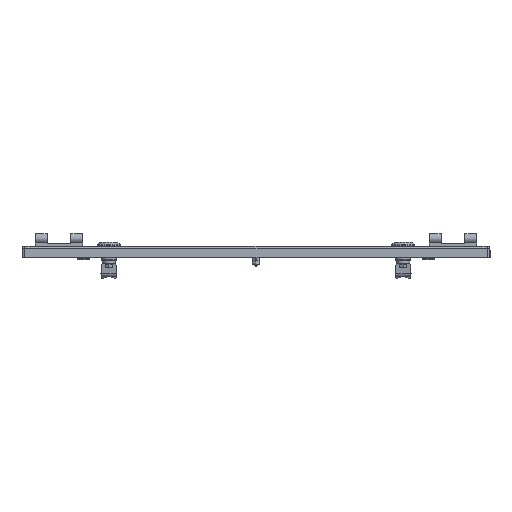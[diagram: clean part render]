
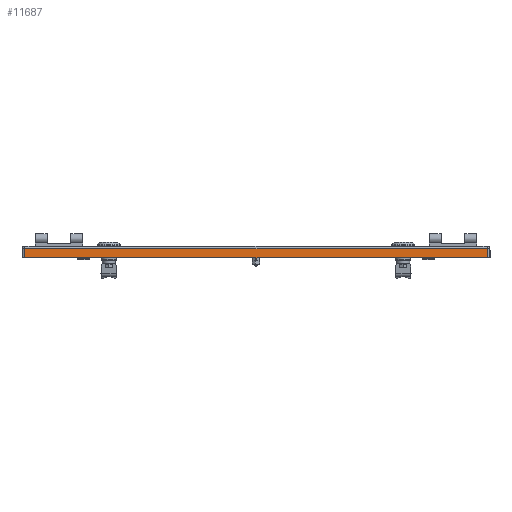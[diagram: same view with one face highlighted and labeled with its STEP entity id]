
A CAD part, left-side view. The second image highlights one B-rep face of the part: STEP entity #11687.
In plain terms, the highlighted planar face has unit normal (-1, 0, 0).
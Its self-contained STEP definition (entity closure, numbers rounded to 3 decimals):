
#4867 = DIRECTION ( 'NONE',  ( 0., -1., 0. ) ) ;
#4870 = CARTESIAN_POINT ( 'NONE',  ( -292.5, 297., -15. ) ) ;
#4894 = CARTESIAN_POINT ( 'NONE',  ( -292.5, -293.5, -15. ) ) ;
#4895 = DIRECTION ( 'NONE',  ( 0., 0., 1. ) ) ;
#4896 = CARTESIAN_POINT ( 'NONE',  ( -292.5, 297., -3.5 ) ) ;
#4897 = DIRECTION ( 'NONE',  ( 0., 1., 0. ) ) ;
#4898 = CARTESIAN_POINT ( 'NONE',  ( -292.5, 293.5, -15. ) ) ;
#4899 = DIRECTION ( 'NONE',  ( 0., 0., -1. ) ) ;
#6474 = CARTESIAN_POINT ( 'NONE',  ( -292.5, -293.5, -15. ) ) ;
#6527 = CARTESIAN_POINT ( 'NONE',  ( -292.5, -293.5, -3.5 ) ) ;
#6649 = CARTESIAN_POINT ( 'NONE',  ( -292.5, 293.5, -3.5 ) ) ;
#6709 = CARTESIAN_POINT ( 'NONE',  ( -292.5, 293.5, -15. ) ) ;
#8602 = AXIS2_PLACEMENT_3D ( 'NONE', #12530, #12535, #12536 ) ;
#9665 = LINE ( 'NONE', #4870, #9671 ) ;
#9671 = VECTOR ( 'NONE', #4867, 1000. ) ;
#9683 = LINE ( 'NONE', #4894, #9686 ) ;
#9685 = LINE ( 'NONE', #4896, #9688 ) ;
#9686 = VECTOR ( 'NONE', #4895, 1000. ) ;
#9687 = LINE ( 'NONE', #4898, #9690 ) ;
#9688 = VECTOR ( 'NONE', #4897, 1000. ) ;
#9690 = VECTOR ( 'NONE', #4899, 1000. ) ;
#11687 = ADVANCED_FACE ( 'NONE', ( #17702 ), #12529, .T. ) ;
#12529 = PLANE ( 'NONE',  #8602 ) ;
#12530 = CARTESIAN_POINT ( 'NONE',  ( -292.5, 297., -15. ) ) ;
#12535 = DIRECTION ( 'NONE',  ( -1., 0., 0. ) ) ;
#12536 = DIRECTION ( 'NONE',  ( 0., -1., 0. ) ) ;
#15223 = EDGE_LOOP ( 'NONE', ( #21020, #21021, #21022, #21023 ) ) ;
#16711 = VERTEX_POINT ( 'NONE', #6474 ) ;
#16764 = VERTEX_POINT ( 'NONE', #6527 ) ;
#16886 = VERTEX_POINT ( 'NONE', #6649 ) ;
#16946 = VERTEX_POINT ( 'NONE', #6709 ) ;
#17702 = FACE_OUTER_BOUND ( 'NONE', #15223, .T. ) ;
#19499 = EDGE_CURVE ( 'NONE', #16946, #16711, #9665, .T. ) ;
#19508 = EDGE_CURVE ( 'NONE', #16711, #16764, #9683, .T. ) ;
#19509 = EDGE_CURVE ( 'NONE', #16764, #16886, #9685, .T. ) ;
#19510 = EDGE_CURVE ( 'NONE', #16886, #16946, #9687, .T. ) ;
#21020 = ORIENTED_EDGE ( 'NONE', *, *, #19499, .T. ) ;
#21021 = ORIENTED_EDGE ( 'NONE', *, *, #19508, .T. ) ;
#21022 = ORIENTED_EDGE ( 'NONE', *, *, #19509, .T. ) ;
#21023 = ORIENTED_EDGE ( 'NONE', *, *, #19510, .T. ) ;
